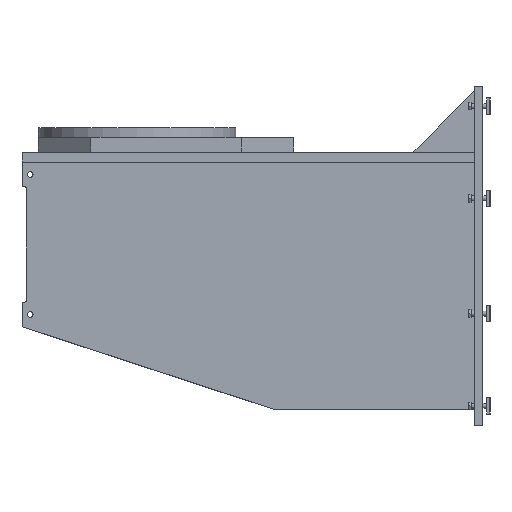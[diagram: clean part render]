
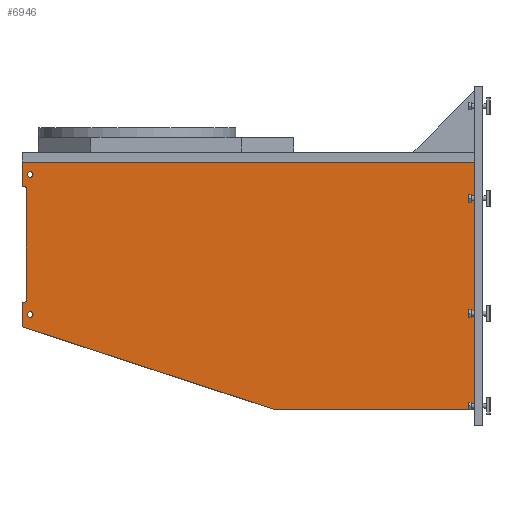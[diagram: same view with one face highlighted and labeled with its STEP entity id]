
A CAD part, left-side view. The second image highlights one B-rep face of the part: STEP entity #6946.
In plain terms, the highlighted planar face has unit normal (-1, 0, 0).
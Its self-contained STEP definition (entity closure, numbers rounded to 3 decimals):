
#424=CARTESIAN_POINT('',(-680.,700.,-210.));
#425=VERTEX_POINT('',#424);
#432=CARTESIAN_POINT('',(-680.,700.,-60.));
#433=VERTEX_POINT('',#432);
#434=CARTESIAN_POINT('',(-680.,700.,-210.));
#435=DIRECTION('',(0.0,0.0,1.0));
#436=VECTOR('',#435,150.0);
#437=LINE('',#434,#436);
#438=EDGE_CURVE('',#425,#433,#437,.T.);
#656=CARTESIAN_POINT('',(-680.,-2050.,-60.));
#657=VERTEX_POINT('',#656);
#664=CARTESIAN_POINT('',(-680.,-2050.,-1560.));
#665=VERTEX_POINT('',#664);
#666=CARTESIAN_POINT('',(-680.,-2050.,-60.));
#667=DIRECTION('',(0.0,0.0,-1.0));
#668=VECTOR('',#667,1500.0);
#669=LINE('',#666,#668);
#670=EDGE_CURVE('',#657,#665,#669,.T.);
#6696=CARTESIAN_POINT('',(-680.,667.,-135.));
#6697=VERTEX_POINT('',#6696);
#6698=CARTESIAN_POINT('',(-680.,650.,-135.));
#6699=DIRECTION('',(1.0,0.0,0.0));
#6700=DIRECTION('',(0.0,-1.0,0.0));
#6701=AXIS2_PLACEMENT_3D('',#6698,#6699,#6700);
#6702=CIRCLE('',#6701,17.0);
#6703=EDGE_CURVE('',#6697,#6697,#6702,.T.);
#6716=CARTESIAN_POINT('',(-680.,667.,-985.0));
#6717=VERTEX_POINT('',#6716);
#6718=CARTESIAN_POINT('',(-680.,650.,-985.0));
#6719=DIRECTION('',(1.0,0.0,0.0));
#6720=DIRECTION('',(0.0,-1.0,0.0));
#6721=AXIS2_PLACEMENT_3D('',#6718,#6719,#6720);
#6722=CIRCLE('',#6721,17.0);
#6723=EDGE_CURVE('',#6717,#6717,#6722,.T.);
#6736=CARTESIAN_POINT('',(-680.,-825.,-1560.0));
#6737=VERTEX_POINT('',#6736);
#6738=CARTESIAN_POINT('',(-680.,700.,-1060.));
#6739=VERTEX_POINT('',#6738);
#6740=CARTESIAN_POINT('',(-680.,-825.,-1560.0));
#6741=DIRECTION('',(0.0,0.95,0.312));
#6742=VECTOR('',#6741,1604.875);
#6743=LINE('',#6740,#6742);
#6744=EDGE_CURVE('',#6737,#6739,#6743,.T.);
#6778=CARTESIAN_POINT('',(-680.,700.,-910.0));
#6779=VERTEX_POINT('',#6778);
#6780=CARTESIAN_POINT('',(-680.,700.,-1060.));
#6781=DIRECTION('',(0.0,0.0,1.0));
#6782=VECTOR('',#6781,150.);
#6783=LINE('',#6780,#6782);
#6784=EDGE_CURVE('',#6739,#6779,#6783,.T.);
#6802=CARTESIAN_POINT('',(-680.,685.,-910.0));
#6803=VERTEX_POINT('',#6802);
#6804=CARTESIAN_POINT('',(-680.,700.,-910.0));
#6805=DIRECTION('',(0.0,-1.0,0.0));
#6806=VECTOR('',#6805,15.);
#6807=LINE('',#6804,#6806);
#6808=EDGE_CURVE('',#6779,#6803,#6807,.T.);
#6826=CARTESIAN_POINT('',(-680.,675.,-900.0));
#6827=VERTEX_POINT('',#6826);
#6828=CARTESIAN_POINT('',(-680.,685.,-900.0));
#6829=DIRECTION('',(-1.0,0.0,0.0));
#6830=DIRECTION('',(0.0,0.0,-1.0));
#6831=AXIS2_PLACEMENT_3D('',#6828,#6829,#6830);
#6832=CIRCLE('',#6831,10.0);
#6833=EDGE_CURVE('',#6803,#6827,#6832,.T.);
#6851=CARTESIAN_POINT('',(-680.,675.,-220.));
#6852=VERTEX_POINT('',#6851);
#6853=CARTESIAN_POINT('',(-680.,675.,-900.0));
#6854=DIRECTION('',(0.0,0.0,1.0));
#6855=VECTOR('',#6854,680.);
#6856=LINE('',#6853,#6855);
#6857=EDGE_CURVE('',#6827,#6852,#6856,.T.);
#6875=CARTESIAN_POINT('',(-680.,685.,-210.));
#6876=VERTEX_POINT('',#6875);
#6877=CARTESIAN_POINT('',(-680.,685.,-220.));
#6878=DIRECTION('',(-1.0,0.0,0.0));
#6879=DIRECTION('',(0.0,-1.0,0.0));
#6880=AXIS2_PLACEMENT_3D('',#6877,#6878,#6879);
#6881=CIRCLE('',#6880,10.0);
#6882=EDGE_CURVE('',#6852,#6876,#6881,.T.);
#6900=CARTESIAN_POINT('',(-680.,685.,-210.));
#6901=DIRECTION('',(0.0,1.0,0.0));
#6902=VECTOR('',#6901,15.0);
#6903=LINE('',#6900,#6902);
#6904=EDGE_CURVE('',#6876,#425,#6903,.T.);
#6912=CARTESIAN_POINT('',(-680.,-748.821,-735.915));
#6913=DIRECTION('',(-1.0,0.0,0.0));
#6914=DIRECTION('',(0.0,1.0,0.0));
#6915=AXIS2_PLACEMENT_3D('',#6912,#6913,#6914);
#6916=PLANE('',#6915);
#6917=CARTESIAN_POINT('',(-680.,700.,-60.));
#6918=DIRECTION('',(0.0,-1.0,0.0));
#6919=VECTOR('',#6918,2750.0);
#6920=LINE('',#6917,#6919);
#6921=EDGE_CURVE('',#433,#657,#6920,.T.);
#6922=ORIENTED_EDGE('',*,*,#6921,.F.);
#6923=ORIENTED_EDGE('',*,*,#438,.F.);
#6924=ORIENTED_EDGE('',*,*,#6904,.F.);
#6925=ORIENTED_EDGE('',*,*,#6882,.F.);
#6926=ORIENTED_EDGE('',*,*,#6857,.F.);
#6927=ORIENTED_EDGE('',*,*,#6833,.F.);
#6928=ORIENTED_EDGE('',*,*,#6808,.F.);
#6929=ORIENTED_EDGE('',*,*,#6784,.F.);
#6930=ORIENTED_EDGE('',*,*,#6744,.F.);
#6931=CARTESIAN_POINT('',(-680.,-2050.,-1560.));
#6932=DIRECTION('',(0.0,1.0,0.0));
#6933=VECTOR('',#6932,1225.0);
#6934=LINE('',#6931,#6933);
#6935=EDGE_CURVE('',#665,#6737,#6934,.T.);
#6936=ORIENTED_EDGE('',*,*,#6935,.F.);
#6937=ORIENTED_EDGE('',*,*,#670,.F.);
#6938=EDGE_LOOP('',(#6922,#6923,#6924,#6925,#6926,#6927,#6928,#6929,#6930,#6936,#6937));
#6939=FACE_OUTER_BOUND('',#6938,.T.);
#6940=ORIENTED_EDGE('',*,*,#6703,.T.);
#6941=EDGE_LOOP('',(#6940));
#6942=FACE_BOUND('',#6941,.T.);
#6943=ORIENTED_EDGE('',*,*,#6723,.T.);
#6944=EDGE_LOOP('',(#6943));
#6945=FACE_BOUND('',#6944,.T.);
#6946=ADVANCED_FACE('',(#6939,#6942,#6945),#6916,.T.);
